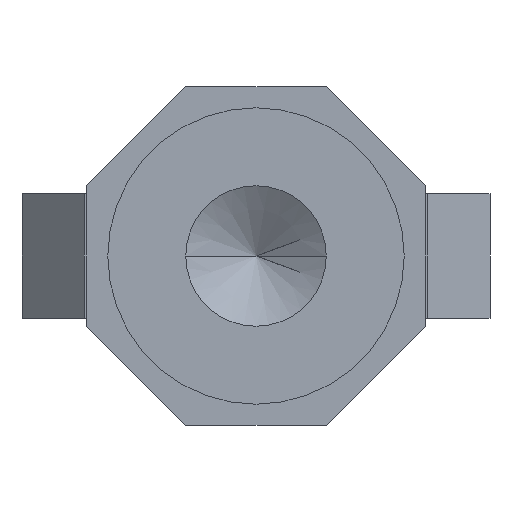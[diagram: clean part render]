
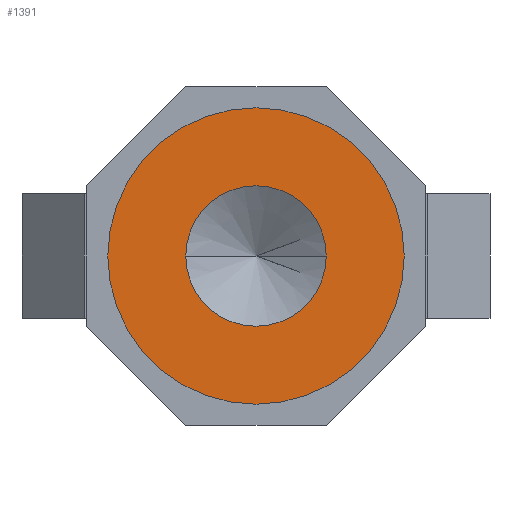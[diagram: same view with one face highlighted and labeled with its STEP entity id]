
A CAD part, left-side view. The second image highlights one B-rep face of the part: STEP entity #1391.
In plain terms, the highlighted planar face has unit normal (-1, 0, 0).
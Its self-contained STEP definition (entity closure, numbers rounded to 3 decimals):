
#384=CARTESIAN_POINT('',(-52.,0.,0.));
#385=DIRECTION('',(-1.,0.,0.));
#386=DIRECTION('',(0.,-1.,0.));
#387=AXIS2_PLACEMENT_3D('',#384,#385,#386);
#389=CARTESIAN_POINT('',(-52.,0.,0.));
#390=DIRECTION('',(-1.,0.,0.));
#391=DIRECTION('',(0.,1.,0.));
#392=AXIS2_PLACEMENT_3D('',#389,#390,#391);
#394=CARTESIAN_POINT('',(-52.,0.,0.));
#395=DIRECTION('',(-1.,0.,0.));
#396=DIRECTION('',(0.,1.,0.));
#397=AXIS2_PLACEMENT_3D('',#394,#395,#396);
#399=CARTESIAN_POINT('',(-52.,0.,0.));
#400=DIRECTION('',(-1.,0.,0.));
#401=DIRECTION('',(0.,-1.,0.));
#402=AXIS2_PLACEMENT_3D('',#399,#400,#401);
#694=CARTESIAN_POINT('',(-52.,-9.5,0.));
#695=CARTESIAN_POINT('',(-52.,9.5,0.));
#696=VERTEX_POINT('',#694);
#697=VERTEX_POINT('',#695);
#784=CARTESIAN_POINT('',(-52.,4.5,0.));
#785=CARTESIAN_POINT('',(-52.,-4.5,0.));
#786=VERTEX_POINT('',#784);
#787=VERTEX_POINT('',#785);
#1375=CARTESIAN_POINT('',(-52.,0.,0.));
#1376=DIRECTION('',(1.,0.,0.));
#1377=DIRECTION('',(0.,-1.,0.));
#1378=AXIS2_PLACEMENT_3D('',#1375,#1376,#1377);
#1379=PLANE('',#1378);
#1380=ORIENTED_EDGE('',*,*,#1365,.F.);
#1382=ORIENTED_EDGE('',*,*,#1381,.F.);
#1383=EDGE_LOOP('',(#1380,#1382));
#1384=FACE_OUTER_BOUND('',#1383,.F.);
#1386=ORIENTED_EDGE('',*,*,#1385,.T.);
#1388=ORIENTED_EDGE('',*,*,#1387,.T.);
#1389=EDGE_LOOP('',(#1386,#1388));
#1390=FACE_BOUND('',#1389,.F.);
#1391=ADVANCED_FACE('',(#1384,#1390),#1379,.F.);
#388=CIRCLE('',#387,9.5);
#393=CIRCLE('',#392,9.5);
#398=CIRCLE('',#397,4.5);
#403=CIRCLE('',#402,4.5);
#1365=EDGE_CURVE('',#696,#697,#388,.T.);
#1381=EDGE_CURVE('',#697,#696,#393,.T.);
#1385=EDGE_CURVE('',#786,#787,#398,.T.);
#1387=EDGE_CURVE('',#787,#786,#403,.T.);
